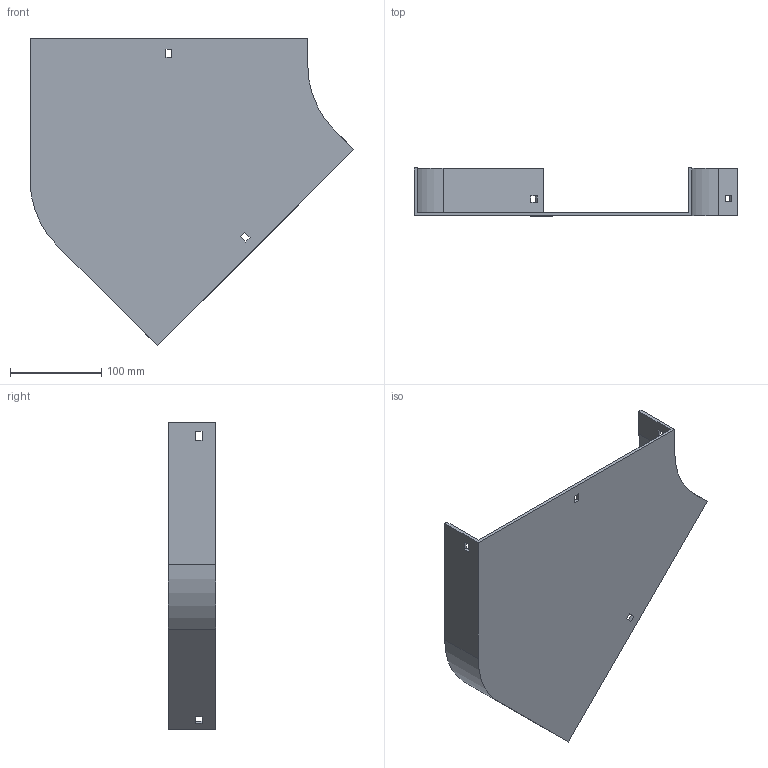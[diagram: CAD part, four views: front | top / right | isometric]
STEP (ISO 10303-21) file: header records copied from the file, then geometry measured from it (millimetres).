
FILE_DESCRIPTION (( 'STEP AP214' ), '1' );
FILE_NAME ('11F1B300.step', '2025-02-21T12:55:38', ( '' ), ( '' ), 'SwSTEP 2.0', 'SolidWorks 2023', '' );
FILE_SCHEMA (( 'AUTOMOTIVE_DESIGN' ));
Length unit declared in the file: millimetre
Products named in the file (1): 11F1B300
Bounding box: 354.5 x 52 x 336.88 mm (x, y, z)
Volume: 374359.4 mm3; surface area: 219270.9 mm2
Topology: 1 solids, 1 shells, 42 faces, 120 edges, 80 vertices
Faces by surface type: plane 38, cylinder 4
Entity records: 1399 total; most frequent: CARTESIAN_POINT 243, ORIENTED_EDGE 240, DIRECTION 214, EDGE_CURVE 120, VECTOR 112, LINE 112, VERTEX_POINT 80, EDGE_LOOP 54
